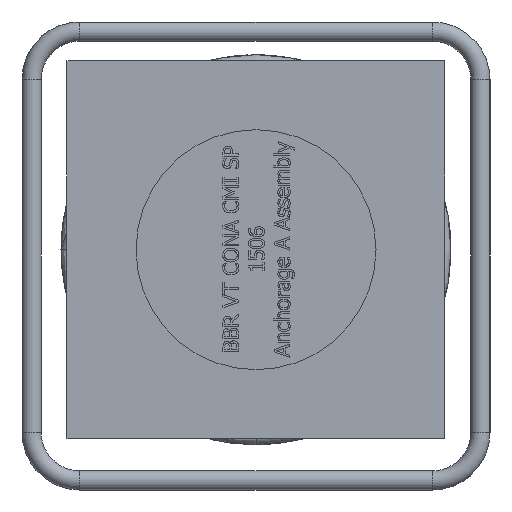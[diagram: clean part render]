
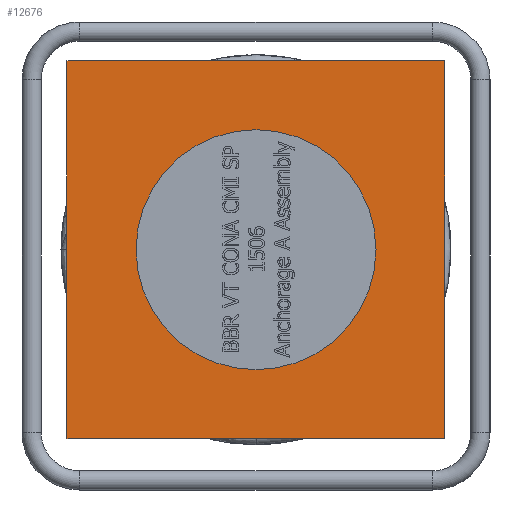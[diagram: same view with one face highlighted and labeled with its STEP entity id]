
A CAD part, left-side view. The second image highlights one B-rep face of the part: STEP entity #12676.
In plain terms, the highlighted planar face has unit normal (-1, 0, 0).
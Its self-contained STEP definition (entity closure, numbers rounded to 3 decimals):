
#1951=LINE('',#25548,#3011);
#1955=LINE('',#25556,#3015);
#1958=LINE('',#25562,#3018);
#1961=LINE('',#25567,#3021);
#3011=VECTOR('',#14929,315.);
#3015=VECTOR('',#14935,315.);
#3018=VECTOR('',#14940,315.);
#3021=VECTOR('',#14945,315.);
#3336=PLANE('',#13085);
#3447=FACE_BOUND('',#4862,.T.);
#4118=FACE_OUTER_BOUND('',#4861,.T.);
#4861=EDGE_LOOP('',(#11250,#11251,#11252,#11253));
#4862=EDGE_LOOP('',(#11254));
#4955=CIRCLE('',#13050,100.);
#6114=VERTEX_POINT('',#22305);
#6132=VERTEX_POINT('',#25546);
#6133=VERTEX_POINT('',#25547);
#6136=VERTEX_POINT('',#25555);
#6138=VERTEX_POINT('',#25561);
#7827=EDGE_CURVE('',#6114,#6114,#4955,.T.);
#7848=EDGE_CURVE('',#6132,#6133,#1951,.T.);
#7852=EDGE_CURVE('',#6133,#6136,#1955,.T.);
#7855=EDGE_CURVE('',#6136,#6138,#1958,.T.);
#7858=EDGE_CURVE('',#6138,#6132,#1961,.T.);
#11250=ORIENTED_EDGE('',*,*,#7858,.T.);
#11251=ORIENTED_EDGE('',*,*,#7848,.T.);
#11252=ORIENTED_EDGE('',*,*,#7852,.T.);
#11253=ORIENTED_EDGE('',*,*,#7855,.T.);
#11254=ORIENTED_EDGE('',*,*,#7827,.T.);
#12676=ADVANCED_FACE('',(#4118,#3447),#3336,.T.);
#13050=AXIS2_PLACEMENT_3D('',#22306,#14865,#14866);
#13085=AXIS2_PLACEMENT_3D('',#25569,#14947,#14948);
#14865=DIRECTION('center_axis',(1.,0.,0.));
#14866=DIRECTION('ref_axis',(0.,0.,
1.));
#14929=DIRECTION('',(0.,0.,-1.));
#14935=DIRECTION('',(0.,-1.,0.));
#14940=DIRECTION('',(0.,0.,1.));
#14945=DIRECTION('',(0.,1.,0.));
#14947=DIRECTION('center_axis',(-1.,0.,0.));
#14948=DIRECTION('ref_axis',(0.,0.,-1.));
#22305=CARTESIAN_POINT('',(-112.151,-100.,5.253));
#22306=CARTESIAN_POINT('Origin',(-112.151,0.,
5.253));
#25546=CARTESIAN_POINT('',(-112.151,157.5,162.753));
#25547=CARTESIAN_POINT('',(-112.151,157.5,-152.247));
#25548=CARTESIAN_POINT('',(-112.151,157.5,162.753));
#25555=CARTESIAN_POINT('',(-112.151,-157.5,-152.247));
#25556=CARTESIAN_POINT('',(-112.151,157.5,-152.247));
#25561=CARTESIAN_POINT('',(-112.151,-157.5,162.753));
#25562=CARTESIAN_POINT('',(-112.151,-157.5,-152.247));
#25567=CARTESIAN_POINT('',(-112.151,-157.5,162.753));
#25569=CARTESIAN_POINT('Origin',(-112.151,0.,
5.253));
